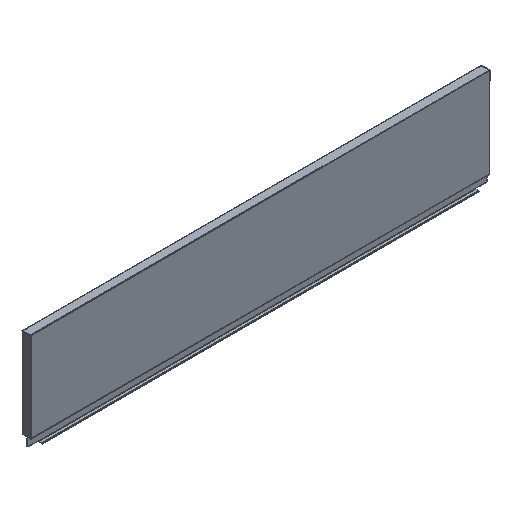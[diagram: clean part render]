
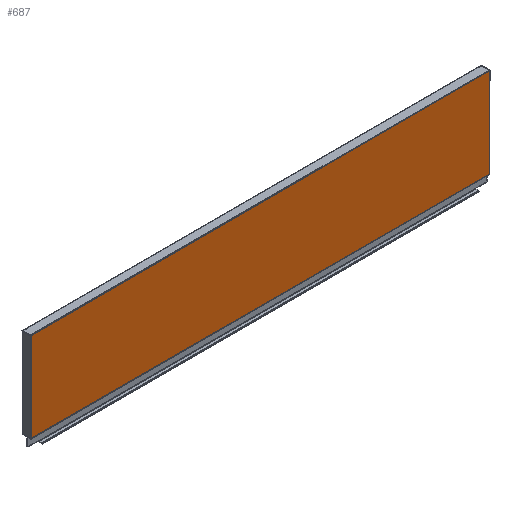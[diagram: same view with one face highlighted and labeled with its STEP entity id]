
A CAD part, isometric view. The second image highlights one B-rep face of the part: STEP entity #687.
In plain terms, the highlighted planar face has unit normal (0, -1, 0).
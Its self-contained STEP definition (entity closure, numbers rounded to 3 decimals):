
#114 = DIRECTION ( 'NONE',  ( 1., 0., 0. ) ) ;
#115 = DIRECTION ( 'NONE',  ( 0., -1., 0. ) ) ;
#116 = CARTESIAN_POINT ( 'NONE',  ( -430., -6., 17. ) ) ;
#117 = PLANE ( 'NONE',  #2363 ) ;
#157 = VERTEX_POINT ( 'NONE', #425 ) ;
#162 = VERTEX_POINT ( 'NONE', #424 ) ;
#177 = VERTEX_POINT ( 'NONE', #421 ) ;
#182 = VERTEX_POINT ( 'NONE', #420 ) ;
#271 = VERTEX_POINT ( 'NONE', #400 ) ;
#277 = VERTEX_POINT ( 'NONE', #398 ) ;
#305 = VERTEX_POINT ( 'NONE', #393 ) ;
#321 = VERTEX_POINT ( 'NONE', #391 ) ;
#388 = CARTESIAN_POINT ( 'NONE',  ( 429., -6., 183.5 ) ) ;
#389 = CARTESIAN_POINT ( 'NONE',  ( -429., -6., 184. ) ) ;
#391 = CARTESIAN_POINT ( 'NONE',  ( 429., -6., 17.5 ) ) ;
#393 = CARTESIAN_POINT ( 'NONE',  ( -429., -6., 183.5 ) ) ;
#398 = CARTESIAN_POINT ( 'NONE',  ( 428.5, -6., 17.5 ) ) ;
#400 = CARTESIAN_POINT ( 'NONE',  ( 429., -6., 184. ) ) ;
#420 = CARTESIAN_POINT ( 'NONE',  ( -429., -6., 17.5 ) ) ;
#421 = CARTESIAN_POINT ( 'NONE',  ( -428.5, -6., 17.5 ) ) ;
#424 = CARTESIAN_POINT ( 'NONE',  ( -428.5, -6., 17. ) ) ;
#425 = CARTESIAN_POINT ( 'NONE',  ( 428.5, -6., 17. ) ) ;
#464 = VERTEX_POINT ( 'NONE', #389 ) ;
#467 = VERTEX_POINT ( 'NONE', #388 ) ;
#575 = CARTESIAN_POINT ( 'NONE',  ( -429., -6., 202.385 ) ) ;
#576 = DIRECTION ( 'NONE',  ( 0., 0., -1. ) ) ;
#687 = ADVANCED_FACE ( 'NONE', ( #1449 ), #117, .T. ) ;
#878 = EDGE_LOOP ( 'NONE', ( #1379, #1378, #1377, #1376, #1375, #1374, #1373, #1372, #1371, #1370 ) ) ;
#1370 = ORIENTED_EDGE ( 'NONE', *, *, #2457, .T. ) ;
#1371 = ORIENTED_EDGE ( 'NONE', *, *, #1893, .F. ) ;
#1372 = ORIENTED_EDGE ( 'NONE', *, *, #1892, .F. ) ;
#1373 = ORIENTED_EDGE ( 'NONE', *, *, #1891, .F. ) ;
#1374 = ORIENTED_EDGE ( 'NONE', *, *, #1890, .T. ) ;
#1375 = ORIENTED_EDGE ( 'NONE', *, *, #1889, .T. ) ;
#1376 = ORIENTED_EDGE ( 'NONE', *, *, #1888, .T. ) ;
#1377 = ORIENTED_EDGE ( 'NONE', *, *, #1887, .T. ) ;
#1378 = ORIENTED_EDGE ( 'NONE', *, *, #1886, .T. ) ;
#1379 = ORIENTED_EDGE ( 'NONE', *, *, #1885, .T. ) ;
#1449 = FACE_OUTER_BOUND ( 'NONE', #878, .T. ) ;
#1542 = LINE ( 'NONE', #2102, #1543 ) ;
#1543 = VECTOR ( 'NONE', #2100, 1000. ) ;
#1544 = LINE ( 'NONE', #2099, #1545 ) ;
#1545 = VECTOR ( 'NONE', #2098, 1000. ) ;
#1546 = LINE ( 'NONE', #2097, #1547 ) ;
#1547 = VECTOR ( 'NONE', #2096, 1000. ) ;
#1548 = LINE ( 'NONE', #2094, #1549 ) ;
#1549 = VECTOR ( 'NONE', #2091, 1000. ) ;
#1550 = LINE ( 'NONE', #2090, #1551 ) ;
#1551 = VECTOR ( 'NONE', #2088, 1000. ) ;
#1552 = LINE ( 'NONE', #2087, #1553 ) ;
#1553 = VECTOR ( 'NONE', #2086, 1000. ) ;
#1554 = LINE ( 'NONE', #2084, #1555 ) ;
#1555 = VECTOR ( 'NONE', #2083, 1000. ) ;
#1556 = LINE ( 'NONE', #2082, #1557 ) ;
#1557 = VECTOR ( 'NONE', #2081, 1000. ) ;
#1558 = LINE ( 'NONE', #2079, #1559 ) ;
#1559 = VECTOR ( 'NONE', #2078, 1000. ) ;
#1822 = LINE ( 'NONE', #575, #1823 ) ;
#1823 = VECTOR ( 'NONE', #576, 1000. ) ;
#1885 = EDGE_CURVE ( 'NONE', #305, #182, #1542, .T. ) ;
#1886 = EDGE_CURVE ( 'NONE', #182, #177, #1544, .T. ) ;
#1887 = EDGE_CURVE ( 'NONE', #177, #162, #1546, .T. ) ;
#1888 = EDGE_CURVE ( 'NONE', #162, #157, #1548, .T. ) ;
#1889 = EDGE_CURVE ( 'NONE', #157, #277, #1550, .T. ) ;
#1890 = EDGE_CURVE ( 'NONE', #277, #321, #1552, .T. ) ;
#1891 = EDGE_CURVE ( 'NONE', #467, #321, #1554, .T. ) ;
#1892 = EDGE_CURVE ( 'NONE', #271, #467, #1556, .T. ) ;
#1893 = EDGE_CURVE ( 'NONE', #464, #271, #1558, .T. ) ;
#2078 = DIRECTION ( 'NONE',  ( 1., 0., 0. ) ) ;
#2079 = CARTESIAN_POINT ( 'NONE',  ( -430., -6., 184. ) ) ;
#2081 = DIRECTION ( 'NONE',  ( 0., 0., -1. ) ) ;
#2082 = CARTESIAN_POINT ( 'NONE',  ( 429., -6., 202.385 ) ) ;
#2083 = DIRECTION ( 'NONE',  ( 0., 0., -1. ) ) ;
#2084 = CARTESIAN_POINT ( 'NONE',  ( 429., -6., 202.385 ) ) ;
#2086 = DIRECTION ( 'NONE',  ( 1., 0., 0. ) ) ;
#2087 = CARTESIAN_POINT ( 'NONE',  ( 428.5, -6., 17.5 ) ) ;
#2088 = DIRECTION ( 'NONE',  ( 0., 0., 1. ) ) ;
#2090 = CARTESIAN_POINT ( 'NONE',  ( 428.5, -6., 15.3 ) ) ;
#2091 = DIRECTION ( 'NONE',  ( 1., 0., 0. ) ) ;
#2094 = CARTESIAN_POINT ( 'NONE',  ( -430., -6., 17. ) ) ;
#2096 = DIRECTION ( 'NONE',  ( 0., 0., -1. ) ) ;
#2097 = CARTESIAN_POINT ( 'NONE',  ( -428.5, -6., 17.5 ) ) ;
#2098 = DIRECTION ( 'NONE',  ( 1., 0., 0. ) ) ;
#2099 = CARTESIAN_POINT ( 'NONE',  ( -430., -6., 17.5 ) ) ;
#2100 = DIRECTION ( 'NONE',  ( 0., 0., -1. ) ) ;
#2102 = CARTESIAN_POINT ( 'NONE',  ( -429., -6., 202.385 ) ) ;
#2363 = AXIS2_PLACEMENT_3D ( 'NONE', #116, #115, #114 ) ;
#2457 = EDGE_CURVE ( 'NONE', #464, #305, #1822, .T. ) ;
